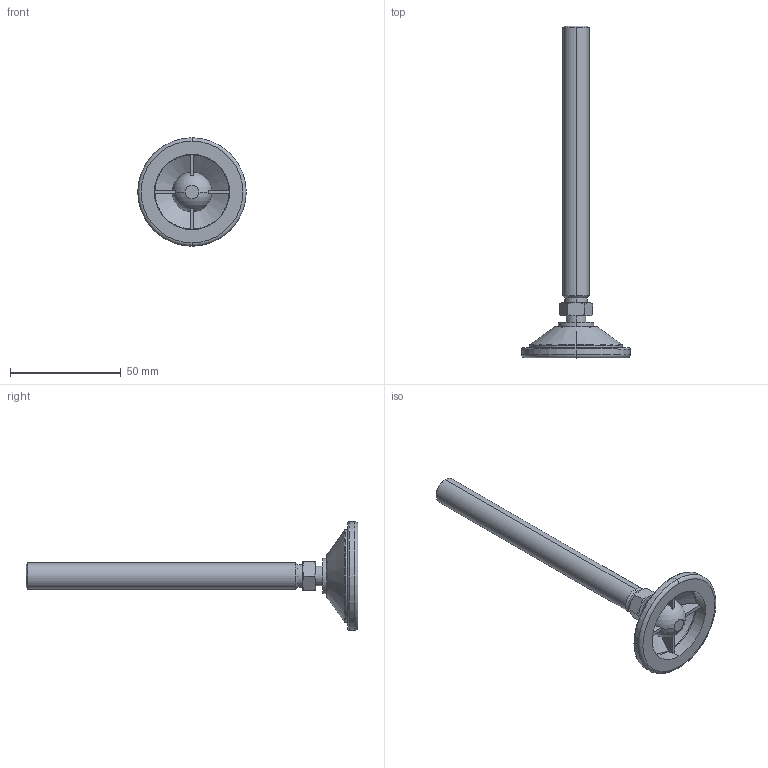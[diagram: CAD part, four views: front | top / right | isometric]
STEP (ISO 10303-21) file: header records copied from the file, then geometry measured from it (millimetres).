
FILE_DESCRIPTION (( 'STEP AP203' ), '1' );
FILE_NAME ('3472.W127.step', '2009-10-21T17:00:50', ( 'Wixroyd' ), ( 'Wixroyd' ), 'SwSTEP 2.0', 'SolidWorks 2009', '' );
FILE_SCHEMA (( 'CONFIG_CONTROL_DESIGN' ));
Length unit declared in the file: millimetre
Products named in the file (3): Part1_3472W127; Part2_3472W127; 3472.W127
Assembly tree (2 placements, depth 2):
  3472.W127
    Part2_3472W127
    Part1_3472W127
Bounding box: 49 x 150 x 49 mm (x, y, z)
Volume: 25828.4 mm3; surface area: 12800.8 mm2
Topology: 2 solids, 2 shells, 95 faces, 231 edges, 145 vertices
Faces by surface type: plane 39, cone 22, cylinder 16, torus 12, sphere 6
Entity records: 3197 total; most frequent: CARTESIAN_POINT 672, DIRECTION 514, ORIENTED_EDGE 446, AXIS2_PLACEMENT_3D 231, EDGE_CURVE 223, VERTEX_POINT 141, CIRCLE 131, EDGE_LOOP 104
